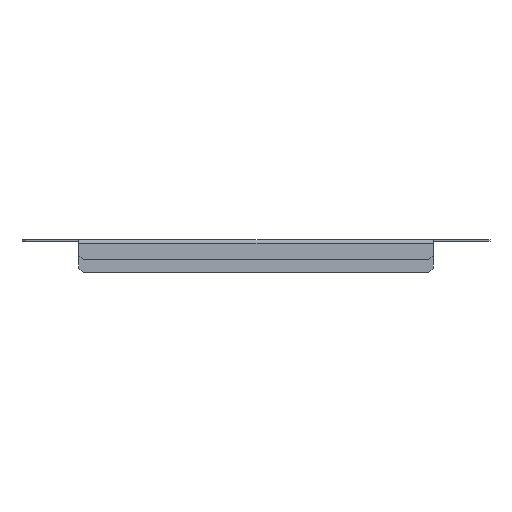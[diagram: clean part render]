
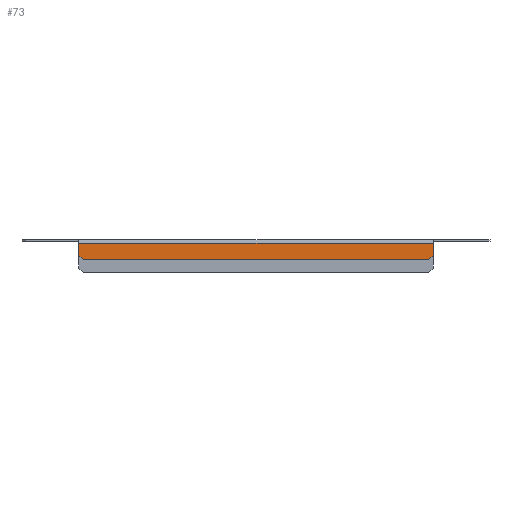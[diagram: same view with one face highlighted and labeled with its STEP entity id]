
A CAD part, front view. The second image highlights one B-rep face of the part: STEP entity #73.
In plain terms, the highlighted planar face has unit normal (0, -1, 0).
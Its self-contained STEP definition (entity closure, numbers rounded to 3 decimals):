
#2 = EDGE_CURVE ( 'NONE', #232, #235, #492, .T. ) ;
#17 = EDGE_CURVE ( 'NONE', #239, #235, #545, .T. ) ;
#18 = EDGE_CURVE ( 'NONE', #238, #234, #548, .T. ) ;
#20 = EDGE_CURVE ( 'NONE', #239, #240, #553, .T. ) ;
#35 = EDGE_CURVE ( 'NONE', #234, #232, #605, .T. ) ;
#46 = EDGE_CURVE ( 'NONE', #238, #240, #639, .T. ) ;
#73 = ADVANCED_FACE ( 'NONE', ( #1203 ), #730, .F. ) ;
#232 = VERTEX_POINT ( 'NONE', #826 ) ;
#234 = VERTEX_POINT ( 'NONE', #828 ) ;
#235 = VERTEX_POINT ( 'NONE', #829 ) ;
#238 = VERTEX_POINT ( 'NONE', #832 ) ;
#239 = VERTEX_POINT ( 'NONE', #833 ) ;
#240 = VERTEX_POINT ( 'NONE', #834 ) ;
#251 = EDGE_LOOP ( 'NONE', ( #295, #293, #294, #291, #292, #339 ) ) ;
#291 = ORIENTED_EDGE ( 'NONE', *, *, #35, .F. ) ;
#292 = ORIENTED_EDGE ( 'NONE', *, *, #18, .F. ) ;
#293 = ORIENTED_EDGE ( 'NONE', *, *, #17, .T. ) ;
#294 = ORIENTED_EDGE ( 'NONE', *, *, #2, .F. ) ;
#295 = ORIENTED_EDGE ( 'NONE', *, *, #20, .F. ) ;
#339 = ORIENTED_EDGE ( 'NONE', *, *, #46, .T. ) ;
#492 = LINE ( 'NONE', #493, #1361 ) ;
#493 = CARTESIAN_POINT ( 'NONE',  ( 146.25, -49.5, -1.4 ) ) ;
#494 = DIRECTION ( 'NONE',  ( 0., 0., -1. ) ) ;
#545 = LINE ( 'NONE', #546, #1362 ) ;
#546 = CARTESIAN_POINT ( 'NONE',  ( 146.25, -49.5, -12.8 ) ) ;
#547 = DIRECTION ( 'NONE',  ( 0.707, 0., 0.707 ) ) ;
#548 = LINE ( 'NONE', #549, #1320 ) ;
#549 = CARTESIAN_POINT ( 'NONE',  ( -146.25, -49.5, -27. ) ) ;
#550 = DIRECTION ( 'NONE',  ( 0., 0., 1. ) ) ;
#553 = LINE ( 'NONE', #554, #1183 ) ;
#554 = CARTESIAN_POINT ( 'NONE',  ( 146.25, -49.5, -16.3 ) ) ;
#555 = DIRECTION ( 'NONE',  ( -1., 0., 0. ) ) ;
#605 = LINE ( 'NONE', #606, #1146 ) ;
#606 = CARTESIAN_POINT ( 'NONE',  ( 146.25, -49.5, -2.9 ) ) ;
#607 = DIRECTION ( 'NONE',  ( 1., 0., 0. ) ) ;
#639 = LINE ( 'NONE', #640, #1265 ) ;
#640 = CARTESIAN_POINT ( 'NONE',  ( -142.75, -49.5, -16.3 ) ) ;
#641 = DIRECTION ( 'NONE',  ( 0.707, 0., -0.707 ) ) ;
#730 = PLANE ( 'NONE',  #1221 ) ;
#731 = CARTESIAN_POINT ( 'NONE',  ( 146.25, -49.5, -27. ) ) ;
#732 = DIRECTION ( 'NONE',  ( 0., 1., 0. ) ) ;
#733 = DIRECTION ( 'NONE',  ( 0., 0., 1. ) ) ;
#826 = CARTESIAN_POINT ( 'NONE',  ( 146.25, -49.5, -2.9 ) ) ;
#828 = CARTESIAN_POINT ( 'NONE',  ( -146.25, -49.5, -2.9 ) ) ;
#829 = CARTESIAN_POINT ( 'NONE',  ( 146.25, -49.5, -12.8 ) ) ;
#832 = CARTESIAN_POINT ( 'NONE',  ( -146.25, -49.5, -12.8 ) ) ;
#833 = CARTESIAN_POINT ( 'NONE',  ( 142.75, -49.5, -16.3 ) ) ;
#834 = CARTESIAN_POINT ( 'NONE',  ( -142.75, -49.5, -16.3 ) ) ;
#1146 = VECTOR ( 'NONE', #607, 1000. ) ;
#1183 = VECTOR ( 'NONE', #555, 1000. ) ;
#1203 = FACE_OUTER_BOUND ( 'NONE', #251, .T. ) ;
#1221 = AXIS2_PLACEMENT_3D ( 'NONE', #731, #732, #733 ) ;
#1265 = VECTOR ( 'NONE', #641, 1000. ) ;
#1320 = VECTOR ( 'NONE', #550, 1000. ) ;
#1361 = VECTOR ( 'NONE', #494, 1000. ) ;
#1362 = VECTOR ( 'NONE', #547, 1000. ) ;
